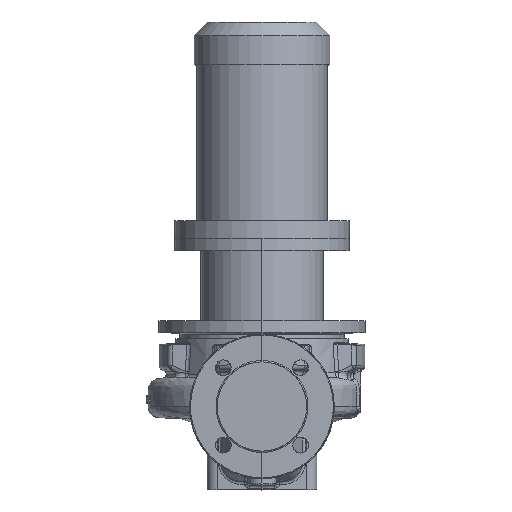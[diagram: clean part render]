
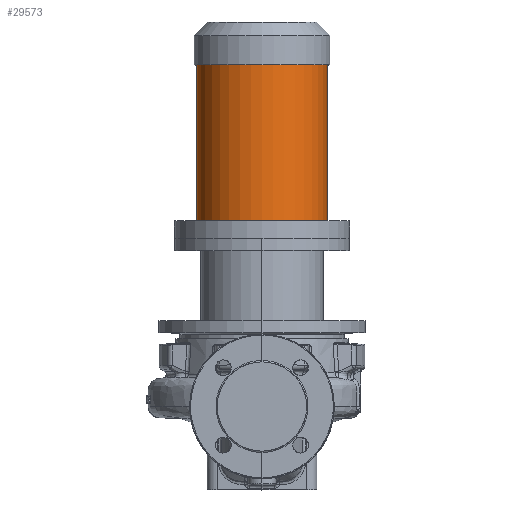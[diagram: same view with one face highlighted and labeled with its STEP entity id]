
A CAD part, top view. The second image highlights one B-rep face of the part: STEP entity #29573.
In plain terms, the highlighted cylindrical face has radius 74.5 mm (diameter 149 mm), a partial arc.
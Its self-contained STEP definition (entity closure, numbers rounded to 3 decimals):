
#3888 = CYLINDRICAL_SURFACE ( 'NONE', #7151, 74.5 ) ;
#7151 = AXIS2_PLACEMENT_3D ( 'NONE', #68064, #54770, #73495 ) ;
#14100 = VERTEX_POINT ( 'NONE', #62041 ) ;
#15564 = DIRECTION ( 'NONE',  ( 0., -1., 0. ) ) ;
#16943 = ORIENTED_EDGE ( 'NONE', *, *, #73250, .T. ) ;
#18107 = ORIENTED_EDGE ( 'NONE', *, *, #50821, .T. ) ;
#21661 = EDGE_CURVE ( 'NONE', #54766, #14100, #59728, .T. ) ;
#22020 = LINE ( 'NONE', #39603, #27811 ) ;
#22117 = ORIENTED_EDGE ( 'NONE', *, *, #21661, .F. ) ;
#22615 = AXIS2_PLACEMENT_3D ( 'NONE', #66426, #79139, #59653 ) ;
#22890 = CARTESIAN_POINT ( 'NONE',  ( -74.5, 192.3, 0. ) ) ;
#27811 = VECTOR ( 'NONE', #15564, 1000. ) ;
#29573 = ADVANCED_FACE ( 'NONE', ( #49441 ), #3888, .T. ) ;
#31256 = CARTESIAN_POINT ( 'NONE',  ( -74.5, 390.3, 0. ) ) ;
#33615 = CARTESIAN_POINT ( 'NONE',  ( 74.5, 212.3, 0. ) ) ;
#35387 = EDGE_LOOP ( 'NONE', ( #58658, #16943, #18107, #22117 ) ) ;
#35827 = DIRECTION ( 'NONE',  ( 0., -1., 0. ) ) ;
#39603 = CARTESIAN_POINT ( 'NONE',  ( 74.5, 192.3, 0. ) ) ;
#40128 = VECTOR ( 'NONE', #35827, 1000. ) ;
#49441 = FACE_OUTER_BOUND ( 'NONE', #35387, .T. ) ;
#50821 = EDGE_CURVE ( 'NONE', #53137, #14100, #77036, .T. ) ;
#53137 = VERTEX_POINT ( 'NONE', #31256 ) ;
#54766 = VERTEX_POINT ( 'NONE', #33615 ) ;
#54770 = DIRECTION ( 'NONE',  ( 0., -1., 0. ) ) ;
#55546 = DIRECTION ( 'NONE',  ( -1., 0., 0. ) ) ;
#56563 = VERTEX_POINT ( 'NONE', #66072 ) ;
#58658 = ORIENTED_EDGE ( 'NONE', *, *, #68033, .F. ) ;
#59653 = DIRECTION ( 'NONE',  ( -1., 0., 0. ) ) ;
#59728 = CIRCLE ( 'NONE', #22615, 74.5 ) ;
#62041 = CARTESIAN_POINT ( 'NONE',  ( -74.5, 212.3, 0. ) ) ;
#66072 = CARTESIAN_POINT ( 'NONE',  ( 74.5, 390.3, 0. ) ) ;
#66426 = CARTESIAN_POINT ( 'NONE',  ( 0., 212.3, 0. ) ) ;
#68031 = CARTESIAN_POINT ( 'NONE',  ( 0., 390.3, 0. ) ) ;
#68033 = EDGE_CURVE ( 'NONE', #56563, #54766, #22020, .T. ) ;
#68064 = CARTESIAN_POINT ( 'NONE',  ( 0., 192.3, 0. ) ) ;
#68598 = AXIS2_PLACEMENT_3D ( 'NONE', #68031, #73719, #55546 ) ;
#73250 = EDGE_CURVE ( 'NONE', #56563, #53137, #75170, .T. ) ;
#73495 = DIRECTION ( 'NONE',  ( -1., 0., 0. ) ) ;
#73719 = DIRECTION ( 'NONE',  ( 0., -1., 0. ) ) ;
#75170 = CIRCLE ( 'NONE', #68598, 74.5 ) ;
#77036 = LINE ( 'NONE', #22890, #40128 ) ;
#79139 = DIRECTION ( 'NONE',  ( 0., -1., 0. ) ) ;
